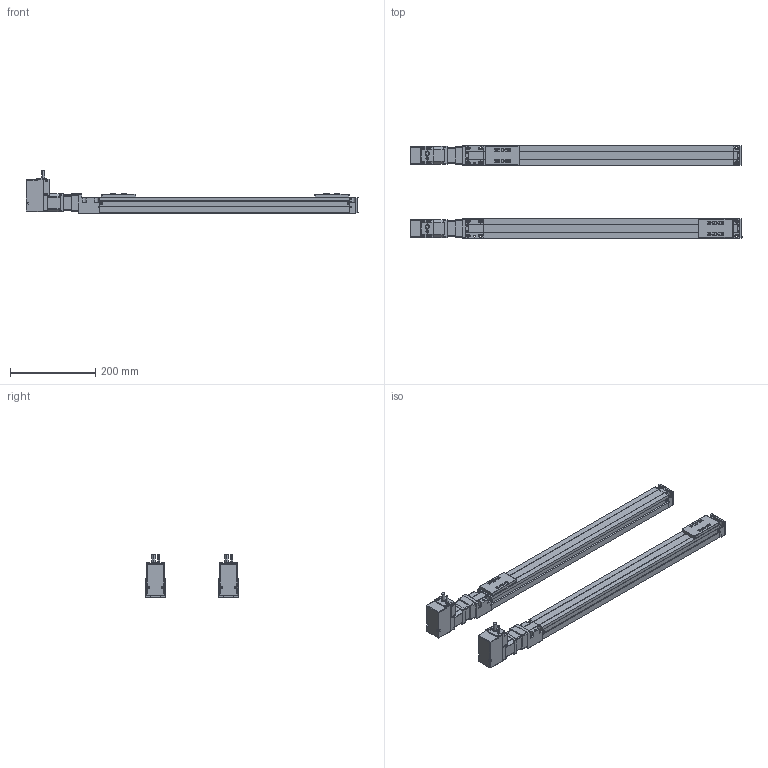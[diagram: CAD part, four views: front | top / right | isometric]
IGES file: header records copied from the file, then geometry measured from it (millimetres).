
Start section: IMSI TurboCAD v14.0
Global section: author: NULL; organization: NULL; date: 20110316.104854; units: millimetre
Bounding box: 778.67 x 216.56 x 100.06 mm (x, y, z)
Surface area: 548650.1 mm2 (no closed solid volume)
Topology: 0 solids, 0 shells, 4173 faces, 22406 edges, 22334 vertices
Faces by surface type: revolution 2020, extrusion 1957, bspline 196
